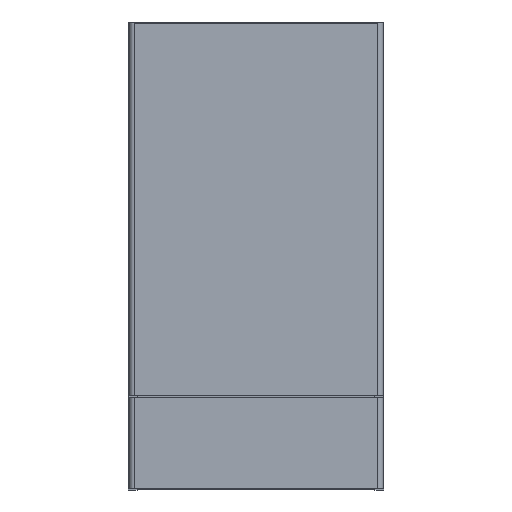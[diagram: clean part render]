
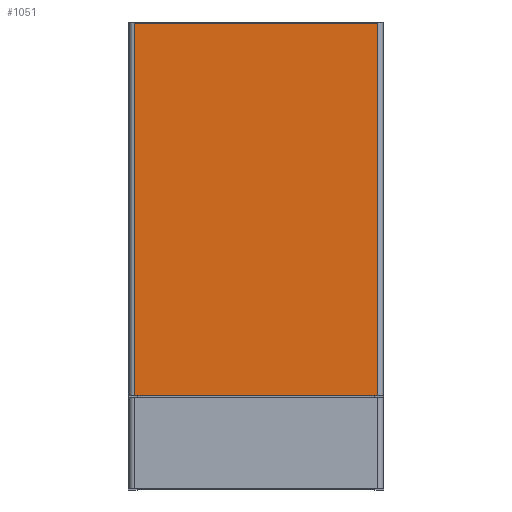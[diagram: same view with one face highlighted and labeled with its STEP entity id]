
A CAD part, front view. The second image highlights one B-rep face of the part: STEP entity #1051.
In plain terms, the highlighted planar face has unit normal (0, -1, 0).
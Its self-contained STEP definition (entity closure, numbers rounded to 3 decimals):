
#73=FACE_OUTER_BOUND('',#133,.T.);
#133=EDGE_LOOP('',(#877,#878,#879,#880));
#249=LINE('',#1625,#387);
#252=LINE('',#1631,#390);
#255=LINE('',#1637,#393);
#258=LINE('',#1641,#396);
#387=VECTOR('',#1325,10.);
#390=VECTOR('',#1330,10.);
#393=VECTOR('',#1335,10.);
#396=VECTOR('',#1340,10.);
#493=VERTEX_POINT('',#1622);
#494=VERTEX_POINT('',#1624);
#496=VERTEX_POINT('',#1630);
#498=VERTEX_POINT('',#1636);
#621=EDGE_CURVE('',#494,#493,#249,.T.);
#624=EDGE_CURVE('',#496,#494,#252,.T.);
#627=EDGE_CURVE('',#498,#496,#255,.T.);
#630=EDGE_CURVE('',#493,#498,#258,.T.);
#877=ORIENTED_EDGE('',*,*,#630,.T.);
#878=ORIENTED_EDGE('',*,*,#627,.T.);
#879=ORIENTED_EDGE('',*,*,#624,.T.);
#880=ORIENTED_EDGE('',*,*,#621,.T.);
#999=PLANE('',#1129);
#1051=ADVANCED_FACE('',(#73),#999,.T.);
#1129=AXIS2_PLACEMENT_3D('',#1642,#1341,#1342);
#1325=DIRECTION('',(0.,0.,1.));
#1330=DIRECTION('',(1.,0.,0.));
#1335=DIRECTION('',(0.,0.,-1.));
#1340=DIRECTION('',(-1.,0.,0.));
#1341=DIRECTION('center_axis',(0.,-1.,0.));
#1342=DIRECTION('ref_axis',(0.,0.,-1.));
#1622=CARTESIAN_POINT('',(221.,-202.109,848.));
#1624=CARTESIAN_POINT('',(221.,-202.109,172.));
#1625=CARTESIAN_POINT('',(221.,-202.109,848.));
#1630=CARTESIAN_POINT('',(-221.,-202.109,172.));
#1631=CARTESIAN_POINT('',(221.,-202.109,172.));
#1636=CARTESIAN_POINT('',(-221.,-202.109,848.));
#1637=CARTESIAN_POINT('',(-221.,-202.109,172.));
#1641=CARTESIAN_POINT('',(-221.,-202.109,848.));
#1642=CARTESIAN_POINT('Origin',(0.,-202.109,510.));
